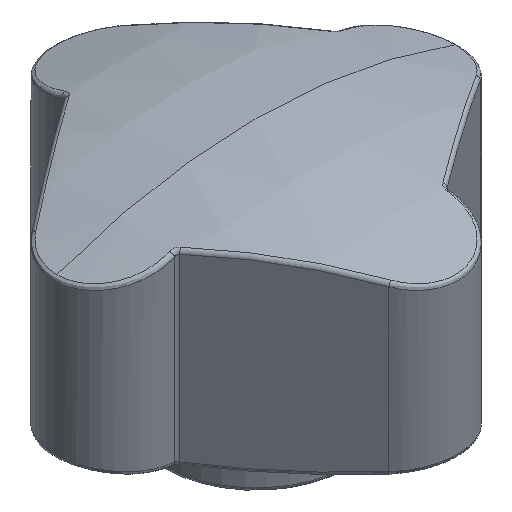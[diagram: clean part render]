
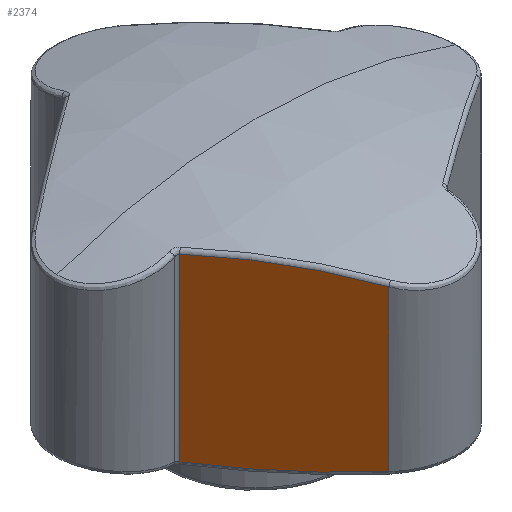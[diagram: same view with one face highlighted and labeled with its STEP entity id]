
A CAD part, isometric view. The second image highlights one B-rep face of the part: STEP entity #2374.
In plain terms, the highlighted planar face has unit normal (-0.809, -0.588, 0).
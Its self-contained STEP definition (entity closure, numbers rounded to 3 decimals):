
#411 = CIRCLE ( 'NONE', #446, 98.023 ) ;
#432 = DIRECTION ( 'NONE',  ( -0.809, -0.588, 0. ) ) ;
#434 = FACE_OUTER_BOUND ( 'NONE', #2371, .T. ) ;
#435 = CARTESIAN_POINT ( 'NONE',  ( -16.548, -7.133, 6.993 ) ) ;
#436 = LINE ( 'NONE', #507, #506 ) ;
#437 = DIRECTION ( 'NONE',  ( 0.588, -0.809, 0. ) ) ;
#438 = DIRECTION ( 'NONE',  ( -0.809, -0.588, 0. ) ) ;
#445 = CARTESIAN_POINT ( 'NONE',  ( -14.223, -10.333, 104.937 ) ) ;
#446 = AXIS2_PLACEMENT_3D ( 'NONE', #445, #438, #437 ) ;
#485 = DIRECTION ( 'NONE',  ( 0.588, -0.809, 0. ) ) ;
#491 = AXIS2_PLACEMENT_3D ( 'NONE', #502, #432, #485 ) ;
#502 = CARTESIAN_POINT ( 'NONE',  ( -5.663, -22.114, 35. ) ) ;
#503 = CARTESIAN_POINT ( 'NONE',  ( -16.548, -7.133, 29.285 ) ) ;
#504 = PLANE ( 'NONE',  #491 ) ;
#505 = DIRECTION ( 'NONE',  ( 0., 0., -1. ) ) ;
#506 = VECTOR ( 'NONE', #505, 1000. ) ;
#507 = CARTESIAN_POINT ( 'NONE',  ( -16.548, -7.133, 6.586 ) ) ;
#571 = CARTESIAN_POINT ( 'NONE',  ( -14.223, -10.333, -39. ) ) ;
#572 = AXIS2_PLACEMENT_3D ( 'NONE', #571, #582, #615 ) ;
#574 = CIRCLE ( 'NONE', #572, 68.4 ) ;
#582 = DIRECTION ( 'NONE',  ( -0.809, -0.588, 0. ) ) ;
#615 = DIRECTION ( 'NONE',  ( 0.588, -0.809, 0. ) ) ;
#2362 = ORIENTED_EDGE ( 'NONE', *, *, #2363, .T. ) ;
#2363 = EDGE_CURVE ( 'NONE', #2369, #2379, #411, .T. ) ;
#2367 = EDGE_CURVE ( 'NONE', #2373, #2369, #436, .T. ) ;
#2369 = VERTEX_POINT ( 'NONE', #435 ) ;
#2371 = EDGE_LOOP ( 'NONE', ( #2375, #2362, #2378, #2384 ) ) ;
#2373 = VERTEX_POINT ( 'NONE', #503 ) ;
#2374 = ADVANCED_FACE ( 'NONE', ( #434 ), #504, .T. ) ;
#2375 = ORIENTED_EDGE ( 'NONE', *, *, #2367, .T. ) ;
#2378 = ORIENTED_EDGE ( 'NONE', *, *, #2380, .F. ) ;
#2379 = VERTEX_POINT ( 'NONE', #4017 ) ;
#2380 = EDGE_CURVE ( 'NONE', #2381, #2379, #3280, .T. ) ;
#2381 = VERTEX_POINT ( 'NONE', #3711 ) ;
#2384 = ORIENTED_EDGE ( 'NONE', *, *, #2385, .T. ) ;
#2385 = EDGE_CURVE ( 'NONE', #2381, #2373, #574, .T. ) ;
#3277 = DIRECTION ( 'NONE',  ( 0., 0., -1. ) ) ;
#3278 = VECTOR ( 'NONE', #3277, 1000. ) ;
#3279 = CARTESIAN_POINT ( 'NONE',  ( -5.663, -22.114, 35. ) ) ;
#3280 = LINE ( 'NONE', #3279, #3278 ) ;
#3711 = CARTESIAN_POINT ( 'NONE',  ( -5.663, -22.114, 27.832 ) ) ;
#4017 = CARTESIAN_POINT ( 'NONE',  ( -5.663, -22.114, 8.001 ) ) ;
